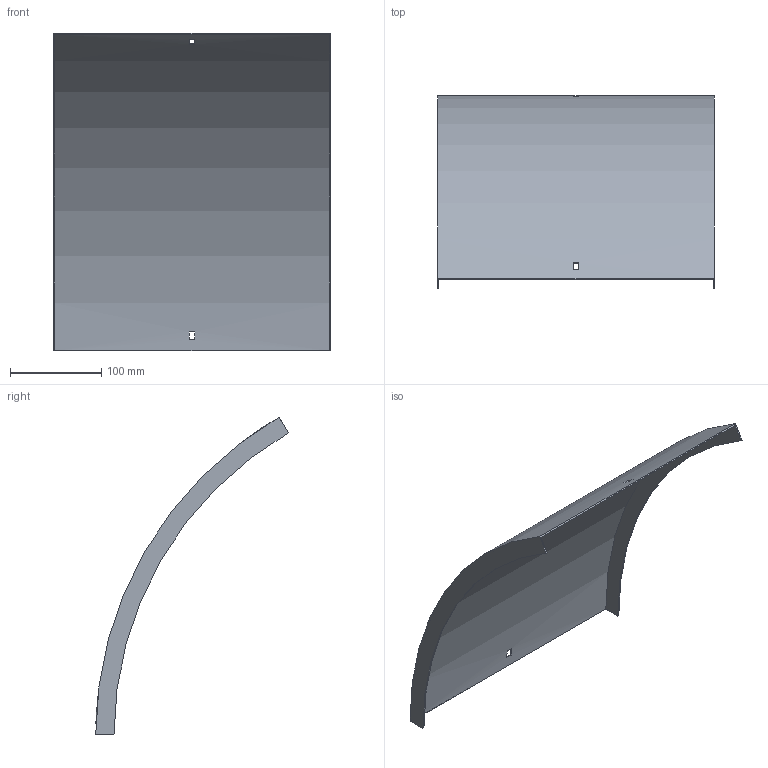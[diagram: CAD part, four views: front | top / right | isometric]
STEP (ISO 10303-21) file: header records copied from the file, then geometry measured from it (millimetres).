
FILE_DESCRIPTION (( 'STEP AP214' ), '1' );
FILE_NAME ('B2_41N3D300.step', '2025-02-21T10:41:39', ( '' ), ( '' ), 'SwSTEP 2.0', 'SolidWorks 2023', '' );
FILE_SCHEMA (( 'AUTOMOTIVE_DESIGN' ));
Length unit declared in the file: millimetre
Products named in the file (1): B2_41N3D300
Bounding box: 303 x 210.75 x 347.71 mm (x, y, z)
Volume: 213272 mm3; surface area: 286676.6 mm2
Topology: 1 solids, 1 shells, 18 faces, 48 edges, 32 vertices
Faces by surface type: plane 14, cylinder 4
Entity records: 599 total; most frequent: DIRECTION 102, CARTESIAN_POINT 99, ORIENTED_EDGE 96, EDGE_CURVE 48, AXIS2_PLACEMENT_3D 35, VERTEX_POINT 32, LINE 32, VECTOR 32
